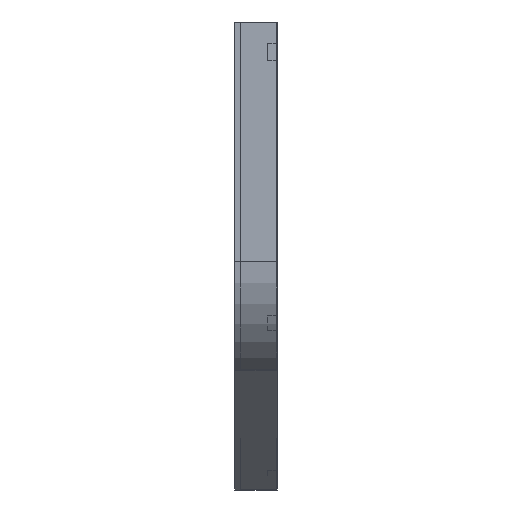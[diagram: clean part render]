
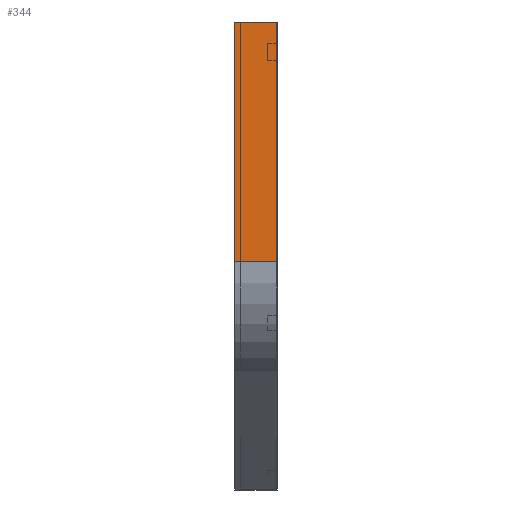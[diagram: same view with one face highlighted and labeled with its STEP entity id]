
A CAD part, left-side view. The second image highlights one B-rep face of the part: STEP entity #344.
In plain terms, the highlighted planar face has unit normal (-1, 0, 0).
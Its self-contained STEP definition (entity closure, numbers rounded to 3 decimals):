
#6 = VECTOR ( 'NONE', #1696, 1000. ) ;
#71 = EDGE_CURVE ( 'NONE', #266, #1489, #1175, .T. ) ;
#80 = VECTOR ( 'NONE', #1950, 1000. ) ;
#95 = CARTESIAN_POINT ( 'NONE',  ( 0., 0., 0. ) ) ;
#152 = VECTOR ( 'NONE', #1857, 1000. ) ;
#188 = CARTESIAN_POINT ( 'NONE',  ( 0., 0., 0. ) ) ;
#210 = VECTOR ( 'NONE', #1224, 1000. ) ;
#241 = CARTESIAN_POINT ( 'NONE',  ( 0., 100., -569.615 ) ) ;
#242 = LINE ( 'NONE', #862, #6 ) ;
#266 = VERTEX_POINT ( 'NONE', #95 ) ;
#344 = ADVANCED_FACE ( 'NONE', ( #1089 ), #1259, .F. ) ;
#470 = ORIENTED_EDGE ( 'NONE', *, *, #71, .F. ) ;
#540 = VERTEX_POINT ( 'NONE', #980 ) ;
#667 = EDGE_CURVE ( 'NONE', #540, #266, #242, .T. ) ;
#680 = EDGE_CURVE ( 'NONE', #984, #1489, #1194, .T. ) ;
#787 = CARTESIAN_POINT ( 'NONE',  ( 0., 0., 0. ) ) ;
#862 = CARTESIAN_POINT ( 'NONE',  ( 0., 0., 0. ) ) ;
#888 = ORIENTED_EDGE ( 'NONE', *, *, #680, .T. ) ;
#937 = DIRECTION ( 'NONE',  ( 1., 0., 0. ) ) ;
#980 = CARTESIAN_POINT ( 'NONE',  ( 0., 100., 0. ) ) ;
#984 = VERTEX_POINT ( 'NONE', #241 ) ;
#1024 = AXIS2_PLACEMENT_3D ( 'NONE', #787, #937, #1587 ) ;
#1087 = CARTESIAN_POINT ( 'NONE',  ( 0., 100., 0. ) ) ;
#1089 = FACE_OUTER_BOUND ( 'NONE', #1778, .T. ) ;
#1175 = LINE ( 'NONE', #188, #80 ) ;
#1194 = LINE ( 'NONE', #1673, #210 ) ;
#1224 = DIRECTION ( 'NONE',  ( 0., -1., 0. ) ) ;
#1259 = PLANE ( 'NONE',  #1024 ) ;
#1489 = VERTEX_POINT ( 'NONE', #1689 ) ;
#1555 = LINE ( 'NONE', #1087, #152 ) ;
#1587 = DIRECTION ( 'NONE',  ( 0., 0., -1. ) ) ;
#1673 = CARTESIAN_POINT ( 'NONE',  ( 0., 0., -569.615 ) ) ;
#1689 = CARTESIAN_POINT ( 'NONE',  ( 0., 0., -569.615 ) ) ;
#1696 = DIRECTION ( 'NONE',  ( 0., -1., 0. ) ) ;
#1743 = ORIENTED_EDGE ( 'NONE', *, *, #667, .F. ) ;
#1752 = ORIENTED_EDGE ( 'NONE', *, *, #1968, .T. ) ;
#1778 = EDGE_LOOP ( 'NONE', ( #470, #1743, #1752, #888 ) ) ;
#1857 = DIRECTION ( 'NONE',  ( 0., 0., -1. ) ) ;
#1950 = DIRECTION ( 'NONE',  ( 0., 0., -1. ) ) ;
#1968 = EDGE_CURVE ( 'NONE', #540, #984, #1555, .T. ) ;
